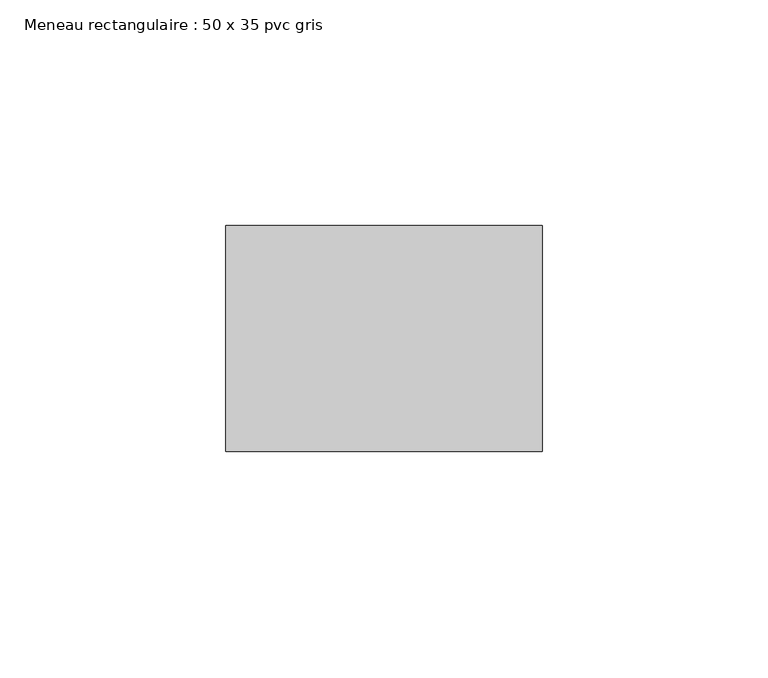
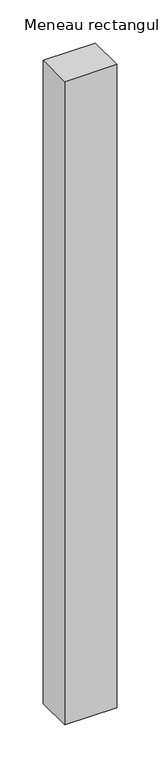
"""IFC4 building model written with IfcOpenShell, lengths in millimetres: member geometry, Meneau rectangulaire : 50 x 35 pvc gris."""

from ifc_helpers import new_model, si_unit, frame, origin, place, context, project, spatial, polyline, outline, extrude, source, transform, mapped, element, save


def meneau_rectangulaire_50_x_35_pvc_gris_74bd5bcc(model_context):
    return source(origin(), model_context, "Body", "SweptSolid", [
        extrude(outline(polyline([(0.0, 0.0), (0.0, -50.0), (-70.0, -50.0), (-70.0, 0.0), (0.0, 0.0)])), frame((0.0, 0.0, -913.0), z_axis=(0.0, 0.0, 1.0), x_axis=(1.0, 0.0, 0.0)), (0.0, 0.0, 1.0), 913.0),
    ])


if __name__ == "__main__":
    model = new_model("IFC4")
    model_context = context("Model", 3, world=origin())
    ifc_project = project(units=[si_unit("LENGTHUNIT", "METRE", prefix="MILLI")], contexts=[model_context])
    site = spatial("IfcSite", under=ifc_project)
    building = spatial("IfcBuilding", under=site)
    placement = place(None, origin())
    meneau_rectangulaire_50_x_35_pvc_gris_shape = meneau_rectangulaire_50_x_35_pvc_gris_74bd5bcc(model_context)
    element("IfcMember", 1, ObjectType="Meneau rectangulaire : 50 x 35 pvc gris", at=placement, inside=building, context=model_context, shape_type="MappedRepresentation", body=[
        mapped(meneau_rectangulaire_50_x_35_pvc_gris_shape, transform((0.0, 0.0, 0.0), x_axis=(1.0, 0.0, 0.0), y_axis=(0.0, 1.0, 0.0), z_axis=(0.0, 0.0, 1.0))),
    ])
    save(model, "model.ifc")
